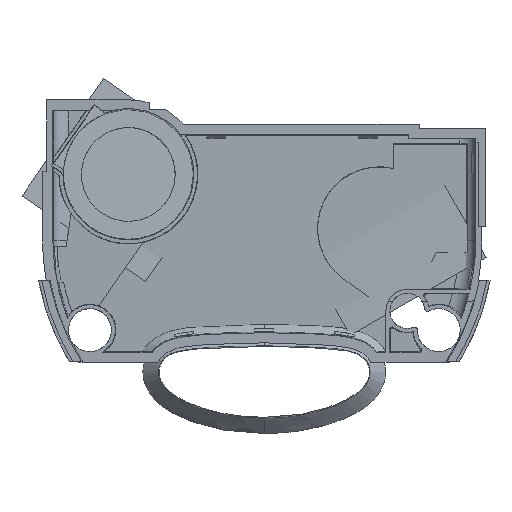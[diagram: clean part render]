
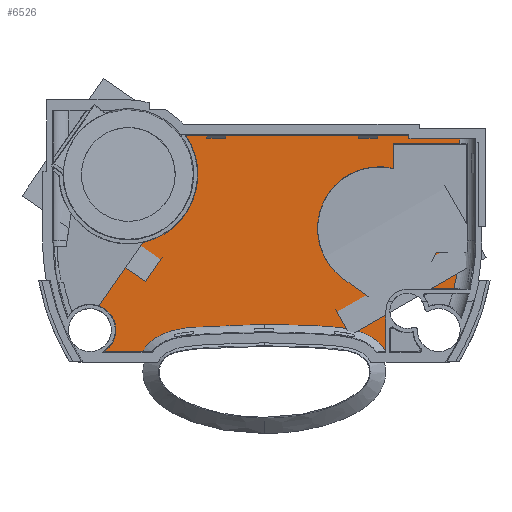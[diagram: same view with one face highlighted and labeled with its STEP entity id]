
A CAD part, top view. The second image highlights one B-rep face of the part: STEP entity #6526.
In plain terms, the highlighted planar face has unit normal (0, 0, 1).
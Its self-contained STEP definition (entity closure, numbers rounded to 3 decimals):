
#1286=DIRECTION('',(0.808,-0.589,0.));
#1287=VECTOR('',#1286,5.623);
#1288=CARTESIAN_POINT('',(10.051,-4.483,1.7));
#1289=LINE('',#1288,#1287);
#1290=CARTESIAN_POINT('',(18.3,-8.65,1.7));
#1291=DIRECTION('',(0.,0.,1.));
#1292=DIRECTION('',(-0.085,0.996,0.));
#1293=AXIS2_PLACEMENT_3D('',#1290,#1291,#1292);
#1295=CARTESIAN_POINT('',(14.7,1.9,1.7));
#1296=DIRECTION('',(0.,0.,1.));
#1297=DIRECTION('',(0.419,-0.908,0.));
#1298=AXIS2_PLACEMENT_3D('',#1295,#1296,#1297);
#1300=DIRECTION('',(-1.,0.,0.));
#1301=VECTOR('',#1300,2.96);
#1302=CARTESIAN_POINT('',(24.955,-1.121,1.7));
#1303=LINE('',#1302,#1301);
#1304=DIRECTION('',(-1.,0.,0.));
#1305=VECTOR('',#1304,5.931);
#1306=CARTESIAN_POINT('',(24.231,-5.835,1.7));
#1307=LINE('',#1306,#1305);
#1308=CARTESIAN_POINT('',(18.3,-8.65,1.7));
#1309=DIRECTION('',(0.,0.,-1.));
#1310=DIRECTION('',(-1.,0.,0.));
#1311=AXIS2_PLACEMENT_3D('',#1308,#1309,#1310);
#1313=DIRECTION('',(0.,1.,0.));
#1314=VECTOR('',#1313,5.079);
#1315=CARTESIAN_POINT('',(15.485,-13.729,1.7));
#1316=LINE('',#1315,#1314);
#1317=CARTESIAN_POINT('',(15.485,-13.729,1.7));
#1318=CARTESIAN_POINT('',(15.3,-13.431,1.7));
#1319=CARTESIAN_POINT('',(14.87,-12.873,1.7));
#1320=CARTESIAN_POINT('',(14.063,-12.169,1.7));
#1321=CARTESIAN_POINT('',(13.009,-11.566,1.7));
#1322=CARTESIAN_POINT('',(11.7,-11.107,1.7));
#1323=CARTESIAN_POINT('',(10.181,-10.807,1.7));
#1324=CARTESIAN_POINT('',(8.423,-10.641,1.7));
#1325=CARTESIAN_POINT('',(6.49,-10.519,1.7));
#1326=CARTESIAN_POINT('',(4.423,-10.428,1.7));
#1327=CARTESIAN_POINT('',(2.248,-10.375,1.7));
#1328=CARTESIAN_POINT('',(0.758,-10.363,1.7));
#1329=CARTESIAN_POINT('',(0.,-10.362,1.7));
#1331=CARTESIAN_POINT('',(0.,-10.362,1.7));
#1332=CARTESIAN_POINT('',(-0.708,-10.363,1.7));
#1333=CARTESIAN_POINT('',(-2.045,-10.373,1.7));
#1334=CARTESIAN_POINT('',(-3.796,-10.412,1.7));
#1335=CARTESIAN_POINT('',(-5.346,-10.466,1.7));
#1336=CARTESIAN_POINT('',(-6.719,-10.535,1.7));
#1337=CARTESIAN_POINT('',(-7.94,-10.613,1.7));
#1338=CARTESIAN_POINT('',(-9.031,-10.696,1.7));
#1339=CARTESIAN_POINT('',(-10.01,-10.803,1.7));
#1340=CARTESIAN_POINT('',(-10.897,-10.946,1.7));
#1341=CARTESIAN_POINT('',(-11.693,-11.131,1.7));
#1342=CARTESIAN_POINT('',(-12.384,-11.347,1.7));
#1343=CARTESIAN_POINT('',(-12.983,-11.588,1.7));
#1344=CARTESIAN_POINT('',(-13.513,-11.856,1.7));
#1345=CARTESIAN_POINT('',(-13.996,-12.157,1.7));
#1346=CARTESIAN_POINT('',(-14.452,-12.507,1.7));
#1347=CARTESIAN_POINT('',(-14.872,-12.911,1.7));
#1348=CARTESIAN_POINT('',(-15.246,-13.359,1.7));
#1349=CARTESIAN_POINT('',(-15.458,-13.679,1.7));
#1350=CARTESIAN_POINT('',(-15.555,-13.844,1.7));
#1352=DIRECTION('',(1.,0.,0.));
#1353=VECTOR('',#1352,4.886);
#1354=CARTESIAN_POINT('',(-20.441,-13.844,1.7));
#1355=LINE('',#1354,#1353);
#1356=DIRECTION('',(-0.57,-0.822,0.));
#1357=VECTOR('',#1356,9.853);
#1358=CARTESIAN_POINT('',(-15.52,0.101,1.7));
#1359=LINE('',#1358,#1357);
#1360=CARTESIAN_POINT('',(-17.4,8.8,1.7));
#1361=DIRECTION('',(0.,0.,-1.));
#1362=DIRECTION('',(0.824,0.567,0.));
#1363=AXIS2_PLACEMENT_3D('',#1360,#1361,#1362);
#1365=DIRECTION('',(-1.,0.,0.));
#1366=VECTOR('',#1365,28.567);
#1367=CARTESIAN_POINT('',(18.5,13.844,1.7));
#1368=LINE('',#1367,#1366);
#1369=DIRECTION('',(0.,-1.,0.));
#1370=VECTOR('',#1369,0.5);
#1371=CARTESIAN_POINT('',(18.5,13.844,1.7));
#1372=LINE('',#1371,#1370);
#1373=DIRECTION('',(-1.,0.,0.));
#1374=VECTOR('',#1373,6.496);
#1375=CARTESIAN_POINT('',(24.996,13.344,1.7));
#1376=LINE('',#1375,#1374);
#1377=DIRECTION('',(-1.,0.,0.));
#1378=VECTOR('',#1377,8.517);
#1379=CARTESIAN_POINT('',(24.996,12.721,1.7));
#1380=LINE('',#1379,#1378);
#1381=DIRECTION('',(0.,-1.,0.));
#1382=VECTOR('',#1381,3.127);
#1383=CARTESIAN_POINT('',(16.479,12.721,1.7));
#1384=LINE('',#1383,#1382);
#1385=CARTESIAN_POINT('',(14.7,1.9,1.7));
#1386=DIRECTION('',(0.,0.,1.));
#1387=DIRECTION('',(0.225,0.974,0.));
#1388=AXIS2_PLACEMENT_3D('',#1385,#1386,#1387);
#1619=CARTESIAN_POINT('',(-10.067,13.844,1.7));
#1666=DIRECTION('',(0.,-1.,0.));
#1667=VECTOR('',#1666,0.623);
#1668=CARTESIAN_POINT('',(24.996,13.344,1.7));
#1669=LINE('',#1668,#1667);
#1670=CARTESIAN_POINT('',(24.996,13.344,1.7));
#1730=CARTESIAN_POINT('',(24.955,-1.121,1.7));
#1762=CARTESIAN_POINT('',(24.231,-5.835,1.7));
#1764=CARTESIAN_POINT('',(0.,0.3,1.7));
#1765=DIRECTION('',(0.,0.,-1.));
#1766=DIRECTION('',(0.998,-0.057,0.));
#1767=AXIS2_PLACEMENT_3D('',#1764,#1765,#1766);
#2245=CARTESIAN_POINT('',(-20.441,-13.844,
1.7));
#2301=CARTESIAN_POINT('',(-22.3,-11.1,1.7));
#2302=DIRECTION('',(0.,0.,-1.));
#2303=DIRECTION('',(0.353,0.936,0.));
#2304=AXIS2_PLACEMENT_3D('',#2301,#2302,#2303);
#4257=CARTESIAN_POINT('',(15.06,-7.64,1.7));
#4264=CARTESIAN_POINT('',(15.06,-7.64,1.7));
#4265=CARTESIAN_POINT('',(15.048,-7.678,1.7));
#4266=CARTESIAN_POINT('',(15.014,-7.743,1.7));
#4267=CARTESIAN_POINT('',(14.925,-7.818,1.7));
#4268=CARTESIAN_POINT('',(14.82,-7.855,1.7));
#4269=CARTESIAN_POINT('',(14.696,-7.849,1.7));
#4270=CARTESIAN_POINT('',(14.629,-7.817,1.7));
#4271=CARTESIAN_POINT('',(14.597,-7.794,1.7));
#4317=CARTESIAN_POINT('',(14.597,-7.794,1.7));
#4535=VERTEX_POINT('',#1331);
#4536=VERTEX_POINT('',#1350);
#4578=CARTESIAN_POINT('',(18.5,13.844,1.7));
#4579=CARTESIAN_POINT('',(18.5,13.344,1.7));
#4580=VERTEX_POINT('',#4578);
#4581=VERTEX_POINT('',#4579);
#4650=VERTEX_POINT('',#1670);
#4718=VERTEX_POINT('',#1619);
#4735=CARTESIAN_POINT('',(15.485,-13.729,1.7));
#4736=CARTESIAN_POINT('',(15.485,-8.65,1.7));
#4737=VERTEX_POINT('',#4735);
#4738=VERTEX_POINT('',#4736);
#4750=VERTEX_POINT('',#1762);
#4767=VERTEX_POINT('',#2245);
#4847=CARTESIAN_POINT('',(-15.52,0.101,1.7));
#4848=CARTESIAN_POINT('',(-21.131,-7.998,1.7));
#4849=VERTEX_POINT('',#4847);
#4850=VERTEX_POINT('',#4848);
#4947=CARTESIAN_POINT('',(18.3,-5.835,1.7));
#4948=VERTEX_POINT('',#4947);
#5080=CARTESIAN_POINT('',(24.996,12.721,1.7));
#5081=CARTESIAN_POINT('',(16.479,12.721,1.7));
#5082=VERTEX_POINT('',#5080);
#5083=VERTEX_POINT('',#5081);
#5085=VERTEX_POINT('',#1730);
#5089=CARTESIAN_POINT('',(18.011,-5.269,1.7));
#5090=CARTESIAN_POINT('',(21.996,-1.121,1.7));
#5091=VERTEX_POINT('',#5089);
#5092=VERTEX_POINT('',#5090);
#5093=CARTESIAN_POINT('',(16.479,9.593,1.7));
#5094=CARTESIAN_POINT('',(10.051,-4.483,1.7));
#5095=VERTEX_POINT('',#5093);
#5096=VERTEX_POINT('',#5094);
#5105=VERTEX_POINT('',#4257);
#5106=VERTEX_POINT('',#4317);
#6475=CARTESIAN_POINT('',(0.,0.,1.7));
#6476=DIRECTION('',(0.,0.,1.));
#6477=DIRECTION('',(1.,0.,0.));
#6478=AXIS2_PLACEMENT_3D('',#6475,#6476,#6477);
#6479=PLANE('',#6478);
#6481=ORIENTED_EDGE('',*,*,#6480,.T.);
#6483=ORIENTED_EDGE('',*,*,#6482,.F.);
#6485=ORIENTED_EDGE('',*,*,#6484,.F.);
#6487=ORIENTED_EDGE('',*,*,#6486,.T.);
#6489=ORIENTED_EDGE('',*,*,#6488,.F.);
#6491=ORIENTED_EDGE('',*,*,#6490,.T.);
#6493=ORIENTED_EDGE('',*,*,#6492,.T.);
#6495=ORIENTED_EDGE('',*,*,#6494,.F.);
#6497=ORIENTED_EDGE('',*,*,#6496,.F.);
#6499=ORIENTED_EDGE('',*,*,#6498,.T.);
#6501=ORIENTED_EDGE('',*,*,#6500,.T.);
#6503=ORIENTED_EDGE('',*,*,#6502,.F.);
#6505=ORIENTED_EDGE('',*,*,#6504,.F.);
#6507=ORIENTED_EDGE('',*,*,#6506,.F.);
#6509=ORIENTED_EDGE('',*,*,#6508,.F.);
#6511=ORIENTED_EDGE('',*,*,#6510,.F.);
#6513=ORIENTED_EDGE('',*,*,#6512,.T.);
#6515=ORIENTED_EDGE('',*,*,#6514,.F.);
#6517=ORIENTED_EDGE('',*,*,#6516,.T.);
#6519=ORIENTED_EDGE('',*,*,#6518,.T.);
#6521=ORIENTED_EDGE('',*,*,#6520,.T.);
#6523=ORIENTED_EDGE('',*,*,#6522,.T.);
#6524=EDGE_LOOP('',(#6481,#6483,#6485,#6487,#6489,#6491,#6493,#6495,#6497,#6499,
#6501,#6503,#6505,#6507,#6509,#6511,#6513,#6515,#6517,#6519,#6521,#6523));
#6525=FACE_OUTER_BOUND('',#6524,.F.);
#6526=ADVANCED_FACE('',(#6525),#6479,.T.);
#1294=CIRCLE('',#1293,3.394);
#1299=CIRCLE('',#1298,7.897);
#1312=CIRCLE('',#1311,2.815);
#1330=B_SPLINE_CURVE_WITH_KNOTS('',3,(#1317,#1318,#1319,#1320,#1321,#1322,#1323,
#1324,#1325,#1326,#1327,#1328,#1329),.UNSPECIFIED.,.F.,.F.,(4,1,1,1,1,1,1,1,1,1,
4),(0.,0.1,0.2,0.3,0.4,0.5,0.6,0.7,0.8,0.9,1.),
.UNSPECIFIED.);
#1351=B_SPLINE_CURVE_WITH_KNOTS('',3,(#1331,#1332,#1333,#1334,#1335,#1336,#1337,
#1338,#1339,#1340,#1341,#1342,#1343,#1344,#1345,#1346,#1347,#1348,#1349,#1350),
.UNSPECIFIED.,.F.,.F.,(4,1,1,1,1,1,1,1,1,1,1,1,1,1,1,1,1,4),(0.,
0.059,0.118,0.176,0.235,
0.294,0.353,0.412,0.471,
0.529,0.588,0.647,0.706,
0.765,0.824,0.882,0.941,1.),
.UNSPECIFIED.);
#1364=CIRCLE('',#1363,8.9);
#1389=CIRCLE('',#1388,7.897);
#1768=CIRCLE('',#1767,24.996);
#2305=CIRCLE('',#2304,3.315);
#4272=B_SPLINE_CURVE_WITH_KNOTS('',3,(#4264,#4265,#4266,#4267,#4268,#4269,#4270,
#4271),.UNSPECIFIED.,.F.,.F.,(4,1,1,1,1,4),(0.,0.2,0.4,0.6,0.8,1.),
.UNSPECIFIED.);
#6480=EDGE_CURVE('',#5096,#5106,#1289,.T.);
#6482=EDGE_CURVE('',#5105,#5106,#4272,.T.);
#6484=EDGE_CURVE('',#5091,#5105,#1294,.T.);
#6486=EDGE_CURVE('',#5091,#5092,#1299,.T.);
#6488=EDGE_CURVE('',#5085,#5092,#1303,.T.);
#6490=EDGE_CURVE('',#5085,#4750,#1768,.T.);
#6492=EDGE_CURVE('',#4750,#4948,#1307,.T.);
#6494=EDGE_CURVE('',#4738,#4948,#1312,.T.);
#6496=EDGE_CURVE('',#4737,#4738,#1316,.T.);
#6498=EDGE_CURVE('',#4737,#4535,#1330,.T.);
#6500=EDGE_CURVE('',#4535,#4536,#1351,.T.);
#6502=EDGE_CURVE('',#4767,#4536,#1355,.T.);
#6504=EDGE_CURVE('',#4850,#4767,#2305,.T.);
#6506=EDGE_CURVE('',#4849,#4850,#1359,.T.);
#6508=EDGE_CURVE('',#4718,#4849,#1364,.T.);
#6510=EDGE_CURVE('',#4580,#4718,#1368,.T.);
#6512=EDGE_CURVE('',#4580,#4581,#1372,.T.);
#6514=EDGE_CURVE('',#4650,#4581,#1376,.T.);
#6516=EDGE_CURVE('',#4650,#5082,#1669,.T.);
#6518=EDGE_CURVE('',#5082,#5083,#1380,.T.);
#6520=EDGE_CURVE('',#5083,#5095,#1384,.T.);
#6522=EDGE_CURVE('',#5095,#5096,#1389,.T.);
